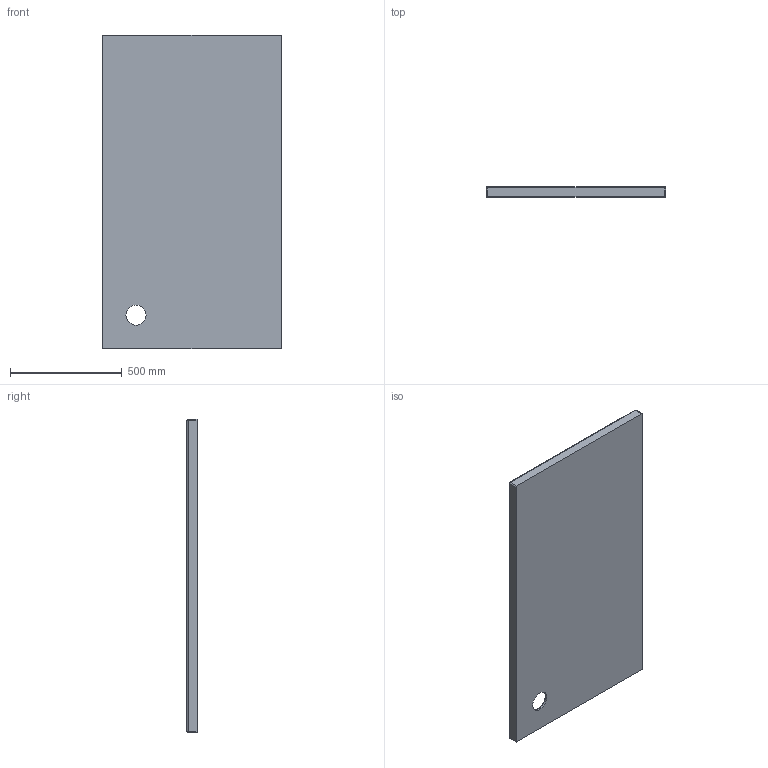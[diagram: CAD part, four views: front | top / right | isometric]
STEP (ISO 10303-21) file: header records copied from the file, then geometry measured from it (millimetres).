
FILE_DESCRIPTION(/* description */ (''),/* implementation_level */ '2;1');
FILE_NAME(/* name */ 'c:\worker\convert-fusion-r09\tmp\job-1\14\output\files\60774e2f-f6db-4f6e-85bb-685053496152\ce88fe12-632d-40c1-8075-09eb8212dbee.stp',/* time_stamp */ '2020-01-03T08:29:12+00:00',/* author */ (''),/* organization */ (''),/* preprocessor_version */ 'ST-DEVELOPER v18',/* originating_system */ 'Autodesk Translation Framework v8.12.0.6',/* authorisation */ '');
FILE_SCHEMA (('AUTOMOTIVE_DESIGN { 1 0 10303 214 3 1 1 }'));
Length unit declared in the file: millimetre
Products named in the file (1): Merton 80/140/P
Bounding box: 800 x 45 x 1400 mm (x, y, z)
Volume: 31419009.5 mm3; surface area: 2484657.9 mm2
Topology: 1 solids, 1 shells, 47 faces, 98 edges, 54 vertices
Faces by surface type: cylinder 21, plane 11, sphere 8, torus 4, bspline 3
Full cylindrical faces by diameter (mm): 90 x1
Entity records: 1791 total; most frequent: CARTESIAN_POINT 741, DIRECTION 230, ORIENTED_EDGE 198, EDGE_CURVE 99, AXIS2_PLACEMENT_3D 92, VERTEX_POINT 55, EDGE_LOOP 50, FACE_OUTER_BOUND 47
